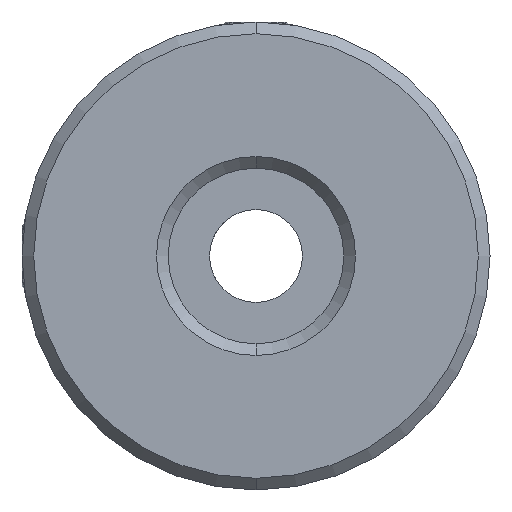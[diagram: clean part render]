
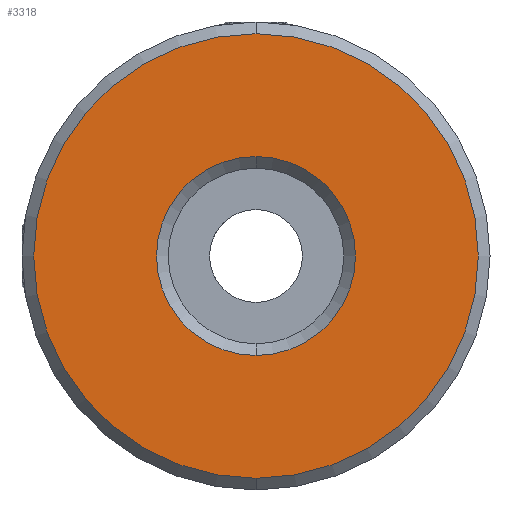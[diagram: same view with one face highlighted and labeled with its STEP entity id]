
A CAD part, front view. The second image highlights one B-rep face of the part: STEP entity #3318.
In plain terms, the highlighted planar face has unit normal (0, -1, 0).
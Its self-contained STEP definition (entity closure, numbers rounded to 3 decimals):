
#97 = DIRECTION ( 'NONE',  ( 0., 0., 1. ) ) ;
#215 = DIRECTION ( 'NONE',  ( 0., -1., 0. ) ) ;
#326 = ORIENTED_EDGE ( 'NONE', *, *, #2172, .T. ) ;
#362 = AXIS2_PLACEMENT_3D ( 'NONE', #3687, #3366, #2272 ) ;
#474 = VERTEX_POINT ( 'NONE', #2918 ) ;
#608 = AXIS2_PLACEMENT_3D ( 'NONE', #2710, #2132, #1250 ) ;
#665 = AXIS2_PLACEMENT_3D ( 'NONE', #1889, #1526, #97 ) ;
#690 = VERTEX_POINT ( 'NONE', #770 ) ;
#770 = CARTESIAN_POINT ( 'NONE',  ( -10.188, -0.277, 15.246 ) ) ;
#773 = DIRECTION ( 'NONE',  ( 0., 0., 1. ) ) ;
#890 = EDGE_LOOP ( 'NONE', ( #326, #3427 ) ) ;
#938 = DIRECTION ( 'NONE',  ( 0., 0., 1. ) ) ;
#1010 = ORIENTED_EDGE ( 'NONE', *, *, #2306, .T. ) ;
#1119 = VERTEX_POINT ( 'NONE', #1275 ) ;
#1250 = DIRECTION ( 'NONE',  ( 0., 0., 1. ) ) ;
#1272 = CIRCLE ( 'NONE', #665, 6.8 ) ;
#1275 = CARTESIAN_POINT ( 'NONE',  ( -10.188, -0.277, -6.754 ) ) ;
#1492 = PLANE ( 'NONE',  #608 ) ;
#1526 = DIRECTION ( 'NONE',  ( 0., 1., 0. ) ) ;
#1554 = FACE_BOUND ( 'NONE', #890, .T. ) ;
#1673 = EDGE_CURVE ( 'NONE', #474, #690, #3692, .T. ) ;
#1889 = CARTESIAN_POINT ( 'NONE',  ( -10.188, -0.277, 0.046 ) ) ;
#2132 = DIRECTION ( 'NONE',  ( 0., 1., 0. ) ) ;
#2172 = EDGE_CURVE ( 'NONE', #1119, #3435, #1272, .T. ) ;
#2272 = DIRECTION ( 'NONE',  ( 0., 0., 1. ) ) ;
#2306 = EDGE_CURVE ( 'NONE', #690, #474, #3464, .T. ) ;
#2317 = ORIENTED_EDGE ( 'NONE', *, *, #1673, .T. ) ;
#2554 = CIRCLE ( 'NONE', #3404, 6.8 ) ;
#2567 = EDGE_CURVE ( 'NONE', #3435, #1119, #2554, .T. ) ;
#2646 = EDGE_LOOP ( 'NONE', ( #1010, #2317 ) ) ;
#2653 = FACE_OUTER_BOUND ( 'NONE', #2646, .T. ) ;
#2681 = DIRECTION ( 'NONE',  ( 0., 1., 0. ) ) ;
#2710 = CARTESIAN_POINT ( 'NONE',  ( -10.188, -0.277, 0.046 ) ) ;
#2918 = CARTESIAN_POINT ( 'NONE',  ( -10.188, -0.277, -15.154 ) ) ;
#3089 = AXIS2_PLACEMENT_3D ( 'NONE', #3679, #215, #773 ) ;
#3318 = ADVANCED_FACE ( 'NONE', ( #2653, #1554 ), #1492, .F. ) ;
#3322 = CARTESIAN_POINT ( 'NONE',  ( -10.188, -0.277, 6.846 ) ) ;
#3366 = DIRECTION ( 'NONE',  ( 0., -1., 0. ) ) ;
#3404 = AXIS2_PLACEMENT_3D ( 'NONE', #3537, #2681, #938 ) ;
#3427 = ORIENTED_EDGE ( 'NONE', *, *, #2567, .T. ) ;
#3435 = VERTEX_POINT ( 'NONE', #3322 ) ;
#3464 = CIRCLE ( 'NONE', #362, 15.2 ) ;
#3537 = CARTESIAN_POINT ( 'NONE',  ( -10.188, -0.277, 0.046 ) ) ;
#3679 = CARTESIAN_POINT ( 'NONE',  ( -10.188, -0.277, 0.046 ) ) ;
#3687 = CARTESIAN_POINT ( 'NONE',  ( -10.188, -0.277, 0.046 ) ) ;
#3692 = CIRCLE ( 'NONE', #3089, 15.2 ) ;
